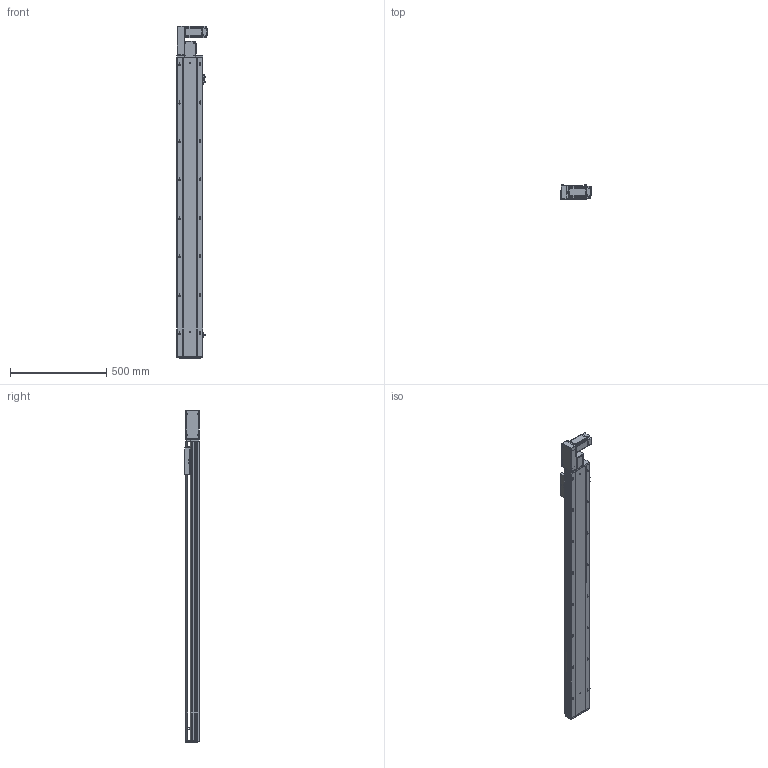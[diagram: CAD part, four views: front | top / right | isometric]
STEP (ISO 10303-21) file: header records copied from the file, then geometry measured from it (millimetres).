
FILE_DESCRIPTION (( 'STEP AP203' ), '1' );
FILE_NAME ('RY140-T-300-LK.SLDASM_1300.step', '2021-03-01T06:36:00', ( '盈信电脑' ), ( '东莞市道滘镇水果街19号' ), 'SwSTEP 2.0', 'SolidWorks 2012', '' );
FILE_SCHEMA (( 'CONFIG_CONTROL_DESIGN' ));
Length unit declared in the file: millimetre
Products named in the file (18): RY140-T翋肮謫裔啣; RY140-T-300-LK.SLDASM_1300; 滅袉蝶18-10; RY120-T主同步轮轴承压盖; RY140-T萇儂欶; RY120-T蹟翐M4; 侂狟400W侜督萇儂; RY140-T翋肮祭謫盓傅釱; RY140-T萇儂假蚾啣; 15; 覜茼ん672; RY120-T肮祭湍揤踡輸2; RY120外置感应片(140共用）; RY120-T肮祭湍揤踡輸1; RY140-T-300-DL倰第奻裔啣_1300; RY140肮祭謫臏賑輸; RY140綴裔啣; RY140-T-300-DL倰第菁釱_1300
Assembly tree (23 placements, depth 3):
  RY140-T-300-LK.SLDASM_1300
    RY140-T-300-DL倰第菁釱_1300
    RY140肮祭謫臏賑輸
    RY140-T-300-DL倰第奻裔啣_1300
    RY140綴裔啣
    覜茼ん672  x3
    RY120外置感应片(140共用）
    RY120-T肮祭湍揤踡輸2
    RY120-T肮祭湍揤踡輸1
    RY140-T翋肮祭謫盓傅釱
    RY140-T萇儂假蚾啣
    侂狟400W侜督萇儂
      15
    RY120-T主同步轮轴承压盖
    RY120-T蹟翐M4  x4
    RY140-T萇儂欶
    滅袉蝶18-10  x2
    RY140-T翋肮謫裔啣
Bounding box: 157 x 78 x 1726.5 mm (x, y, z)
Volume: 4715496.5 mm3; surface area: 1817143.7 mm2
Topology: 22 solids, 22 shells, 2727 faces, 7457 edges, 4768 vertices
Faces by surface type: plane 1381, cylinder 1004, cone 242, bspline 100
Entity records: 86033 total; most frequent: CARTESIAN_POINT 20907, ORIENTED_EDGE 13354, DIRECTION 12749, EDGE_CURVE 6677, VERTEX_POINT 4367, LINE 4261, VECTOR 4261, AXIS2_PLACEMENT_3D 4244
